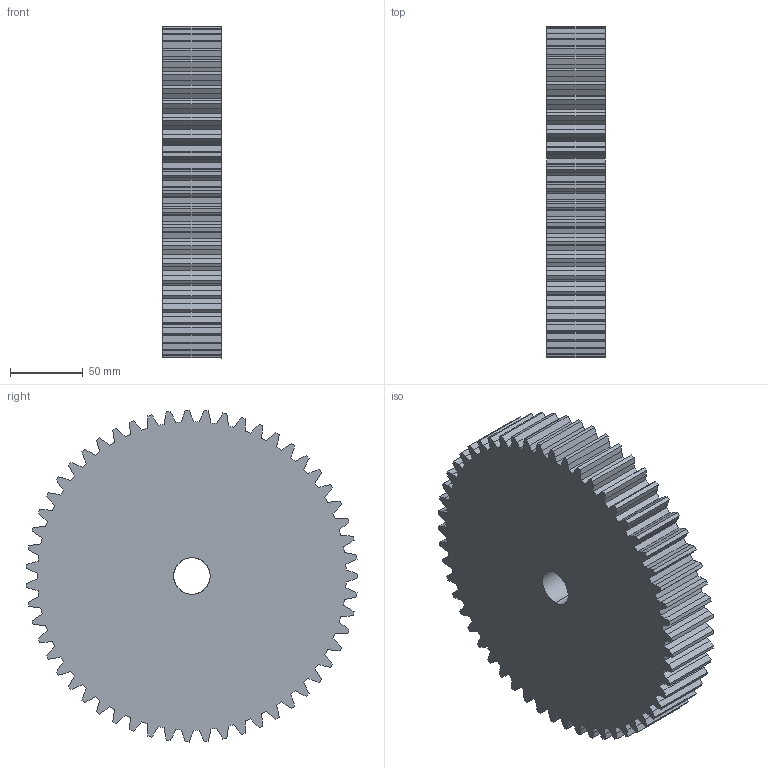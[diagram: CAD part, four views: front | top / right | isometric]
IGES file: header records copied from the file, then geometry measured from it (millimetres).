
Start section: SolidWorks IGES file using analytic representation for surfaces
Global section: file name: C:\Users\Honza\Desktop\Matis (Hotove)\Èelní ozubená kola\MODUL 4\CM 31055.IGS; native system: SolidWorks 2010; preprocessor: SolidWorks 2010; author: Honza; date: 130923.121021; units: millimetre
Bounding box: 40 x 227.87 x 227.97 mm (x, y, z)
Surface area: 129808.9 mm2 (no closed solid volume)
Topology: 0 solids, 0 shells, 334 faces, 2089 edges, 2089 vertices
Faces by surface type: bspline 222, revolution 112
